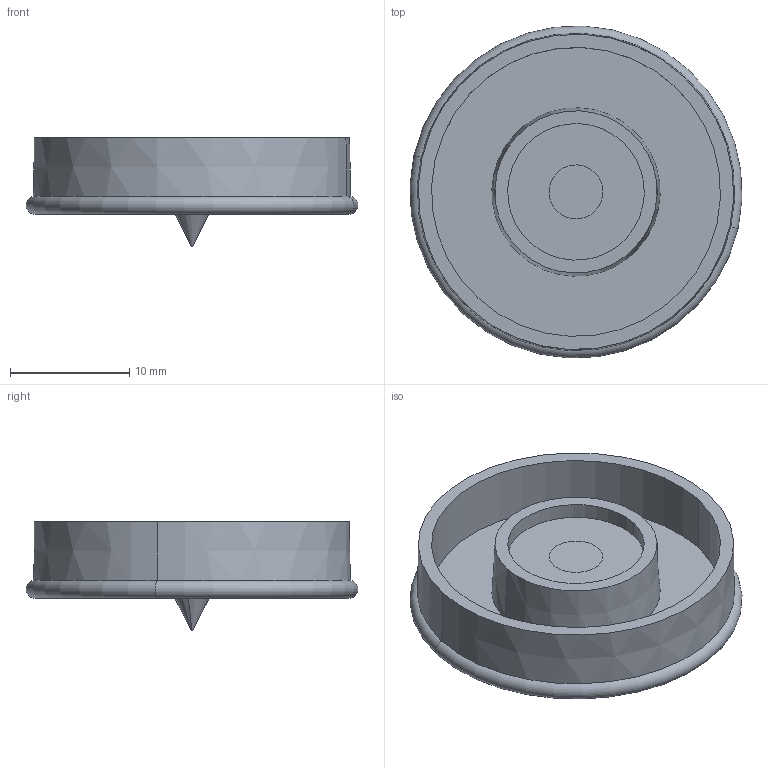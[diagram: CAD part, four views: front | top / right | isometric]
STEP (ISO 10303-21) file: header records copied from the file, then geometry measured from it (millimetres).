
FILE_DESCRIPTION (( 'STEP AP203' ), '1' );
FILE_NAME ('11.05.821 Locator Button for Fixing of 11.05.818+819 Black PA.STEP', '2024-12-18T13:08:30', ( '' ), ( '' ), 'SwSTEP 2.0', 'SolidWorks 2024', '' );
FILE_SCHEMA (( 'CONFIG_CONTROL_DESIGN' ));
Length unit declared in the file: millimetre
Products named in the file (1): 11.05.821 Locator Button for Fixing of 11.05.818+819 Black PA
Bounding box: 27.81 x 27.81 x 9.13 mm (x, y, z)
Surface area: 2436.9 mm2 (no closed solid volume)
Topology: 0 solids, 3 shells, 23 faces, 50 edges, 34 vertices
Faces by surface type: cylinder 8, plane 7, cone 6, torus 2
Entity records: 727 total; most frequent: DIRECTION 134, CARTESIAN_POINT 108, ORIENTED_EDGE 90, AXIS2_PLACEMENT_3D 60, EDGE_CURVE 50, CIRCLE 36, VERTEX_POINT 34, EDGE_LOOP 29
